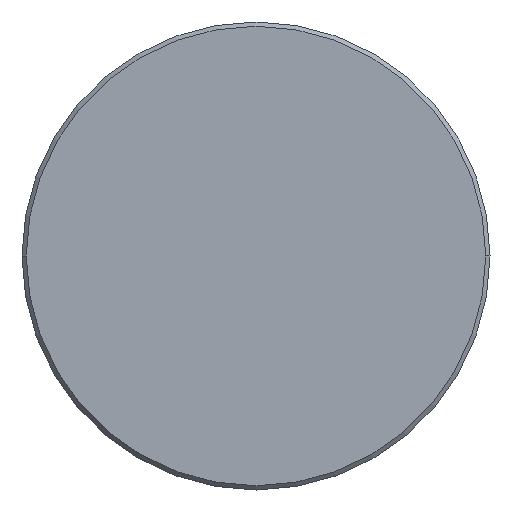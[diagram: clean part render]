
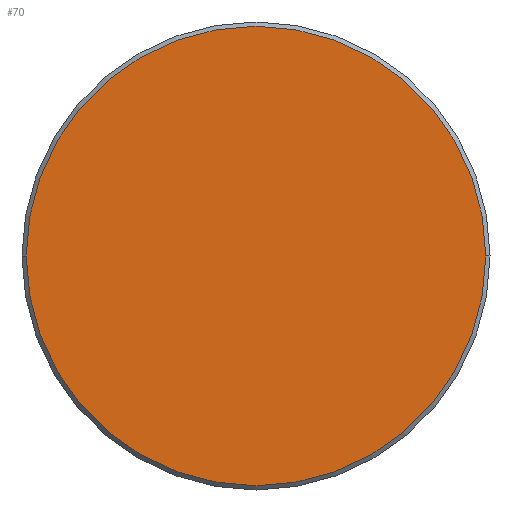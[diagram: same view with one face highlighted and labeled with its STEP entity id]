
A CAD part, left-side view. The second image highlights one B-rep face of the part: STEP entity #70.
In plain terms, the highlighted planar face has unit normal (-1, 0, 0).
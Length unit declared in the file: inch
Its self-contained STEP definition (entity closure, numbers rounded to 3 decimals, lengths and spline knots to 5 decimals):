
#43 = PLANE ( 'NONE',  #76 ) ;
#61 = CARTESIAN_POINT ( 'NONE',  ( 0., 0., 0. ) ) ;
#64 = DIRECTION ( 'NONE',  ( -1., 0., 0. ) ) ;
#70 = ADVANCED_FACE ( 'NONE', ( #194 ), #43, .T. ) ;
#76 = AXIS2_PLACEMENT_3D ( 'NONE', #87, #299, #114 ) ;
#87 = CARTESIAN_POINT ( 'NONE',  ( 0., 0., 0. ) ) ;
#110 = CARTESIAN_POINT ( 'NONE',  ( 0., -0.21475, 0. ) ) ;
#113 = CARTESIAN_POINT ( 'NONE',  ( 0., 0., 0. ) ) ;
#114 = DIRECTION ( 'NONE',  ( 0., -1., 0. ) ) ;
#118 = ORIENTED_EDGE ( 'NONE', *, *, #319, .T. ) ;
#120 = AXIS2_PLACEMENT_3D ( 'NONE', #113, #64, #170 ) ;
#143 = DIRECTION ( 'NONE',  ( 0., -1., 0. ) ) ;
#170 = DIRECTION ( 'NONE',  ( 0., -1., 0. ) ) ;
#194 = FACE_OUTER_BOUND ( 'NONE', #251, .T. ) ;
#203 = AXIS2_PLACEMENT_3D ( 'NONE', #61, #264, #143 ) ;
#233 = ORIENTED_EDGE ( 'NONE', *, *, #312, .T. ) ;
#251 = EDGE_LOOP ( 'NONE', ( #233, #118 ) ) ;
#264 = DIRECTION ( 'NONE',  ( -1., 0., 0. ) ) ;
#278 = VERTEX_POINT ( 'NONE', #318 ) ;
#299 = DIRECTION ( 'NONE',  ( -1., 0., 0. ) ) ;
#312 = EDGE_CURVE ( 'NONE', #278, #327, #325, .T. ) ;
#318 = CARTESIAN_POINT ( 'NONE',  ( 0., 0.21475, 0. ) ) ;
#319 = EDGE_CURVE ( 'NONE', #327, #278, #353, .T. ) ;
#325 = CIRCLE ( 'NONE', #120, 0.21475 ) ;
#327 = VERTEX_POINT ( 'NONE', #110 ) ;
#353 = CIRCLE ( 'NONE', #203, 0.21475 ) ;
